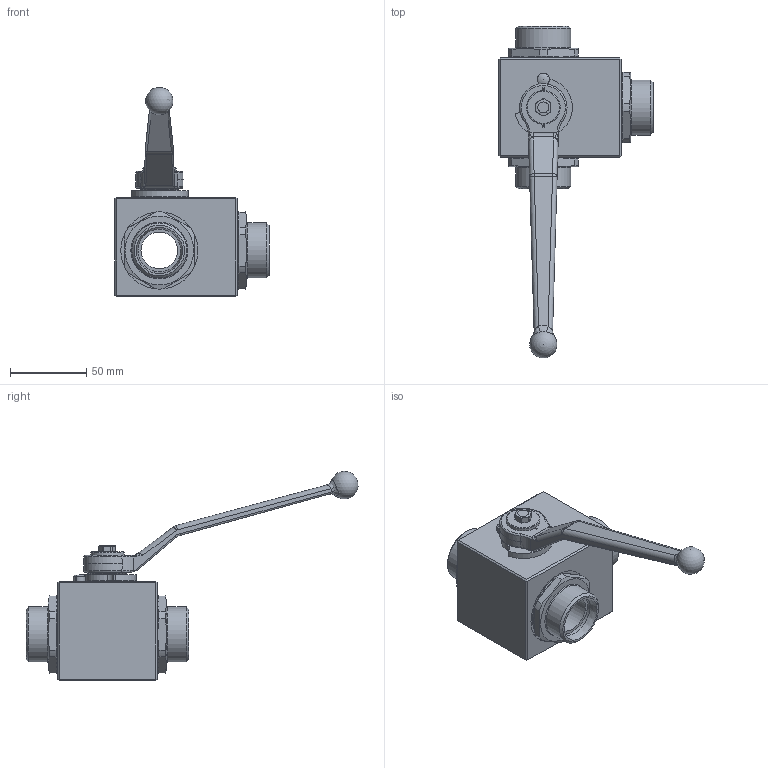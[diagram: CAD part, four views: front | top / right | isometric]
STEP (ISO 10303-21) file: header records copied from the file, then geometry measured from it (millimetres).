
FILE_DESCRIPTION( ( 'Unknown' ), '1' );
FILE_NAME( 'H:/PISTER/3D-MODELLE/BK3-Edelstahl stp/BK3-Edelst DN25 28L.stp', 'Unknown', ( 'Unknown' ), ( 'Unknown' ), 'PSStep 14.0', 'Unknown', ' ' );
FILE_SCHEMA( ( 'AUTOMOTIVE_DESIGN { 1 0 10303 214 1 1 1 1 }' ) );
Length unit declared in the file: millimetre
Products named in the file (12): Assem1; 58-28740-10-oa0; 10-025-001-oa2; 56-032-125-oa6; 09-14-002; 04-025-047-oa7; 04-025-047-oa8; 06-025-009-oa11; 58-0440-007; 58-0933-248; Griff_SW14; 01-025-084-oa12
Assembly tree (11 placements, depth 2):
  Assem1
    58-28740-10-oa0
    10-025-001-oa2
    56-032-125-oa6
    09-14-002
    04-025-047-oa7
    04-025-047-oa8
    06-025-009-oa11
    58-0440-007
    58-0933-248
    Griff_SW14
    01-025-084-oa12
Bounding box: 100.75 x 217.18 x 136.9 mm (x, y, z)
Volume: 283045.7 mm3; surface area: 77526.5 mm2
Topology: 11 solids, 11 shells, 364 faces, 907 edges, 571 vertices
Faces by surface type: plane 137, cylinder 108, cone 46, torus 38, bspline 32, sphere 3
Full cylindrical faces by diameter (mm): 5 x1, 6 x1, 6.6 x1, 7.98 x1, 20 x2, 20.2 x1, 22 x1, 24 x4, 25 x1, 28 x3, 32 x1, 36 x3, 39.3 x1, 41.376 x1, 41.5 x1, 43 x1, 43.3 x1, 45 x3, 46 x3, 50.5 x3
Entity records: 15714 total; most frequent: CARTESIAN_POINT 4744, ORIENTED_EDGE 1592, DIRECTION 1573, EDGE_CURVE 796, AXIS2_PLACEMENT_3D 649, VERTEX_POINT 537, EDGE_LOOP 467, FACE_OUTER_BOUND 409
